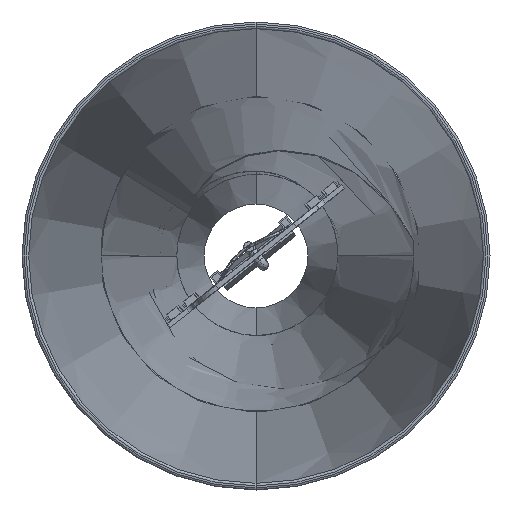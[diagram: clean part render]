
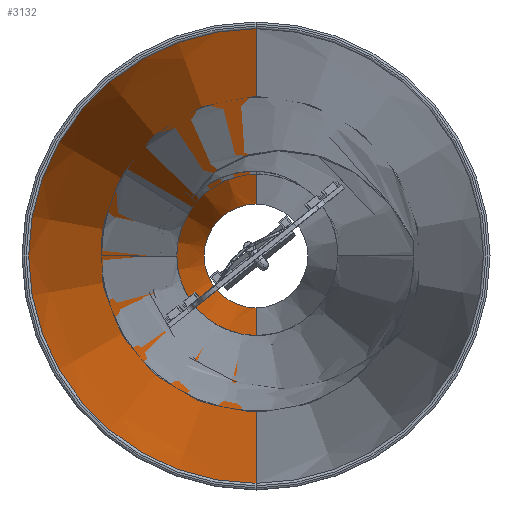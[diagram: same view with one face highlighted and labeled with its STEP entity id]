
A CAD part, front view. The second image highlights one B-rep face of the part: STEP entity #3132.
In plain terms, the highlighted conical face has half-angle 5.75 degrees and reference radius 17.712 mm.
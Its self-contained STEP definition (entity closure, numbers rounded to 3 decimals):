
#19 = VERTEX_POINT ( 'NONE', #11275 ) ;
#537 = AXIS2_PLACEMENT_3D ( 'NONE', #9080, #11843, #3524 ) ;
#904 = VECTOR ( 'NONE', #2212, 1000. ) ;
#2212 = DIRECTION ( 'NONE',  ( 0., -0.995, 0.1 ) ) ;
#2496 = ORIENTED_EDGE ( 'NONE', *, *, #7512, .T. ) ;
#2828 = ORIENTED_EDGE ( 'NONE', *, *, #9823, .T. ) ;
#3132 = ADVANCED_FACE ( 'NONE', ( #11714 ), #6449, .F. ) ;
#3338 = DIRECTION ( 'NONE',  ( 0., 0., -1. ) ) ;
#3397 = DIRECTION ( 'NONE',  ( 0., -1., 0. ) ) ;
#3524 = DIRECTION ( 'NONE',  ( 0., 0., 1. ) ) ;
#3782 = CARTESIAN_POINT ( 'NONE',  ( 0., 149.77, 17.712 ) ) ;
#4184 = LINE ( 'NONE', #6819, #8298 ) ;
#4429 = DIRECTION ( 'NONE',  ( 0., 1., 0. ) ) ;
#5333 = EDGE_CURVE ( 'NONE', #9909, #10454, #9586, .T. ) ;
#6144 = DIRECTION ( 'NONE',  ( 0., -0.995, -0.1 ) ) ;
#6449 = CONICAL_SURFACE ( 'NONE', #9185, 17.712, 0.1 ) ;
#6651 = EDGE_LOOP ( 'NONE', ( #2828, #11432, #2496, #10056 ) ) ;
#6819 = CARTESIAN_POINT ( 'NONE',  ( 0., 149.77, -17.712 ) ) ;
#6953 = CIRCLE ( 'NONE', #8898, 17.792 ) ;
#7000 = CARTESIAN_POINT ( 'NONE',  ( 0., 148.974, 0. ) ) ;
#7162 = EDGE_CURVE ( 'NONE', #19, #7731, #4184, .T. ) ;
#7512 = EDGE_CURVE ( 'NONE', #10454, #7731, #8310, .T. ) ;
#7731 = VERTEX_POINT ( 'NONE', #11586 ) ;
#8298 = VECTOR ( 'NONE', #6144, 1000. ) ;
#8310 = CIRCLE ( 'NONE', #537, 78.048 ) ;
#8756 = CARTESIAN_POINT ( 'NONE',  ( 0., 149.77, 0. ) ) ;
#8898 = AXIS2_PLACEMENT_3D ( 'NONE', #7000, #4429, #9265 ) ;
#9080 = CARTESIAN_POINT ( 'NONE',  ( 0., -449.434, 0. ) ) ;
#9185 = AXIS2_PLACEMENT_3D ( 'NONE', #8756, #3397, #3338 ) ;
#9265 = DIRECTION ( 'NONE',  ( 0., 0., 1. ) ) ;
#9586 = LINE ( 'NONE', #3782, #904 ) ;
#9823 = EDGE_CURVE ( 'NONE', #19, #9909, #6953, .T. ) ;
#9909 = VERTEX_POINT ( 'NONE', #10258 ) ;
#10056 = ORIENTED_EDGE ( 'NONE', *, *, #7162, .F. ) ;
#10258 = CARTESIAN_POINT ( 'NONE',  ( 0., 148.974, 17.792 ) ) ;
#10454 = VERTEX_POINT ( 'NONE', #11401 ) ;
#11275 = CARTESIAN_POINT ( 'NONE',  ( 0., 148.974, -17.792 ) ) ;
#11401 = CARTESIAN_POINT ( 'NONE',  ( 0., -449.434, 78.048 ) ) ;
#11432 = ORIENTED_EDGE ( 'NONE', *, *, #5333, .T. ) ;
#11586 = CARTESIAN_POINT ( 'NONE',  ( 0., -449.434, -78.048 ) ) ;
#11714 = FACE_OUTER_BOUND ( 'NONE', #6651, .T. ) ;
#11843 = DIRECTION ( 'NONE',  ( 0., -1., 0. ) ) ;
